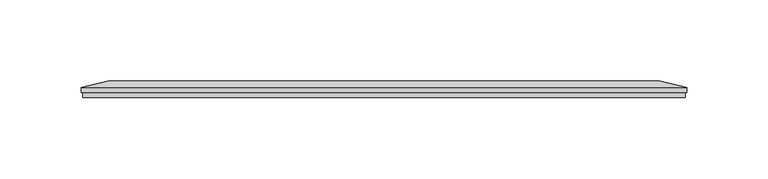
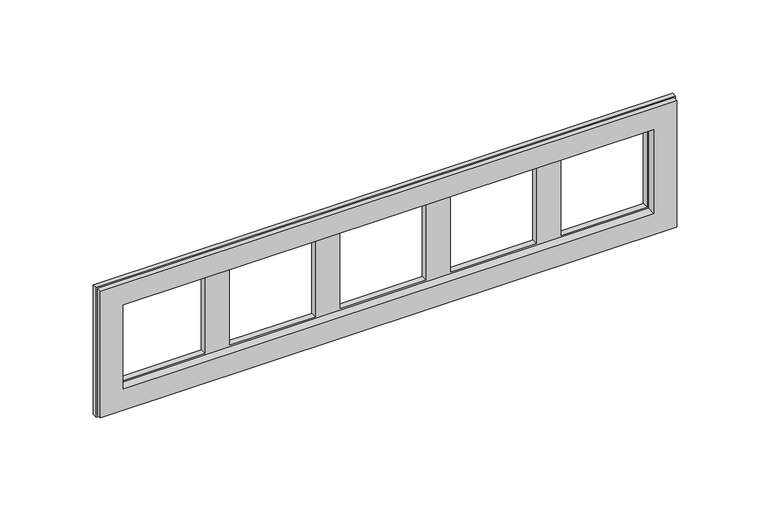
"""IFC4 building model written with IfcOpenShell, lengths in millimetres: proxy geometry, IEK_Brite_Рамка : x5_РУ-5-Бр алюм.-алюм.."""

from ifc_helpers import new_model, si_unit, frame, origin, place, context, project, spatial, polyline, outline, extrude, faceted_brep, source, transform, mapped, element, save


def electrical_fixtures_f4518cee(model_context):
    return source(origin(), model_context, "Body", "SolidModel", [
        extrude(outline(polyline([(43.0, -327.0), (-43.0, -327.0), (-43.0, 43.0), (43.0, 43.0), (43.0, -327.0)]), holes=[polyline([(28.5, -312.5), (28.5, 28.5), (-28.5, 28.5), (-28.5, -312.5), (28.5, -312.5)])]), frame((0.0, 0.0, 0.0), z_axis=(0.0, 1.0, 0.0), x_axis=(0.0, 0.0, 1.0)), (0.0, 0.0, 1.0), 6.0),
        faceted_brep([(-185.5, 10.0, -27.5), (-185.5, 10.0, 27.5), (-169.5, 10.0, 27.5), (-169.5, 10.0, -27.5), (-114.5, 10.0, -27.5), (-114.5, 10.0, 27.5), (-98.5, 10.0, 27.5), (-98.5, 10.0, -27.5), (-43.5, 10.0, -27.5), (-43.5, 10.0, 27.5), (-27.5, 10.0, 27.5), (-27.5, 10.0, -27.5), (-256.5, 10.0, -27.5), (-256.5, 10.0, 27.5), (-240.5, 10.0, 27.5), (-240.5, 10.0, -27.5), (43.0, 6.0, 43.0), (-327.0, 6.0, 43.0), (-327.0, 6.0, -43.0), (43.0, 6.0, -43.0), (-240.5, 6.0, -27.5), (-240.5, 6.0, 27.5), (-185.5, 6.0, 27.5), (-185.5, 6.0, -27.5), (-169.5, 6.0, -27.5), (-169.5, 6.0, 27.5), (-114.5, 6.0, 27.5), (-114.5, 6.0, -27.5), (-98.5, 6.0, -27.5), (-98.5, 6.0, 27.5), (-43.5, 6.0, 27.5), (-43.5, 6.0, -27.5), (-27.5, 6.0, -27.5), (-27.5, 6.0, 27.5), (27.5, 6.0, 27.5), (27.5, 6.0, -27.5), (-311.5, 6.0, -27.5), (-311.5, 6.0, 27.5), (-256.5, 6.0, 27.5), (-256.5, 6.0, -27.5), (44.0, 6.0, 44.0), (27.5, 10.0, 27.5), (-311.5, 10.0, 27.5), (-328.0, 6.0, 44.0), (44.0, 6.0, -44.0), (27.5, 10.0, -27.5), (-328.0, 6.0, -44.0), (-311.5, 10.0, -27.5), (-328.0, 3.0, 44.0), (-328.0, 3.0, -44.0), (44.0, 3.0, -44.0), (44.0, 3.0, 44.0), (-327.0, 3.0, 43.0), (43.0, 3.0, 43.0), (43.0, 3.0, -43.0), (-327.0, 3.0, -43.0)], [[[0, 1, 2, 3]], [[4, 5, 6, 7]], [[8, 9, 10, 11]], [[12, 13, 14, 15]], [[16, 17, 18, 19], [20, 21, 22, 23], [24, 25, 26, 27], [28, 29, 30, 31], [32, 33, 34, 35], [36, 37, 38, 39]], [[40, 41, 10, 9, 6, 5, 2, 1, 14, 13, 42, 43]], [[41, 40, 44, 45]], [[45, 44, 46, 47, 12, 15, 0, 3, 4, 7, 8, 11]], [[43, 42, 47, 46]], [[48, 49, 50, 51], [52, 53, 54, 55]], [[49, 48, 43, 46]], [[50, 49, 46, 44]], [[51, 50, 44, 40]], [[48, 51, 40, 43]], [[53, 52, 17, 16]], [[54, 53, 16, 19]], [[55, 54, 19, 18]], [[52, 55, 18, 17]], [[14, 21, 20, 15]], [[15, 20, 23, 0]], [[0, 23, 22, 1]], [[21, 14, 1, 22]], [[2, 25, 24, 3]], [[3, 24, 27, 4]], [[4, 27, 26, 5]], [[25, 2, 5, 26]], [[6, 29, 28, 7]], [[7, 28, 31, 8]], [[8, 31, 30, 9]], [[29, 6, 9, 30]], [[10, 33, 32, 11]], [[11, 32, 35, 45]], [[45, 35, 34, 41]], [[33, 10, 41, 34]], [[42, 37, 36, 47]], [[47, 36, 39, 12]], [[12, 39, 38, 13]], [[37, 42, 13, 38]]]),
    ])


if __name__ == "__main__":
    model = new_model("IFC4")
    model_context = context("Model", 3, world=origin())
    ifc_project = project(units=[si_unit("LENGTHUNIT", "METRE", prefix="MILLI")], contexts=[model_context])
    site = spatial("IfcSite", under=ifc_project)
    building = spatial("IfcBuilding", under=site)
    placement = place(None, origin())
    electrical_fixtures_shape = electrical_fixtures_f4518cee(model_context)
    element("IfcBuildingElementProxy", 1, Name="IEK_Brite_Рамка : x5_РУ-5-Бр алюм.-алюм.", ObjectType="IEK_Brite_Рамка : x5_РУ-5-Бр алюм.-алюм.", at=placement, inside=building, context=model_context, shape_type="MappedRepresentation", body=[
        mapped(electrical_fixtures_shape, transform((0.0, 0.0, 0.0), x_axis=(1.0, 0.0, 0.0), y_axis=(0.0, 1.0, 0.0), z_axis=(0.0, 0.0, 1.0))),
    ])
    save(model, "model.ifc")
